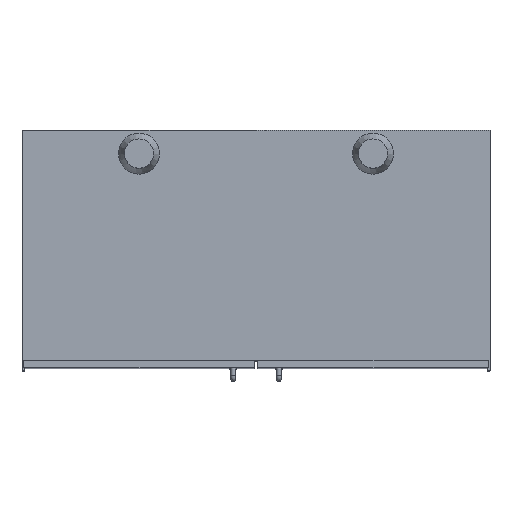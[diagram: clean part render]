
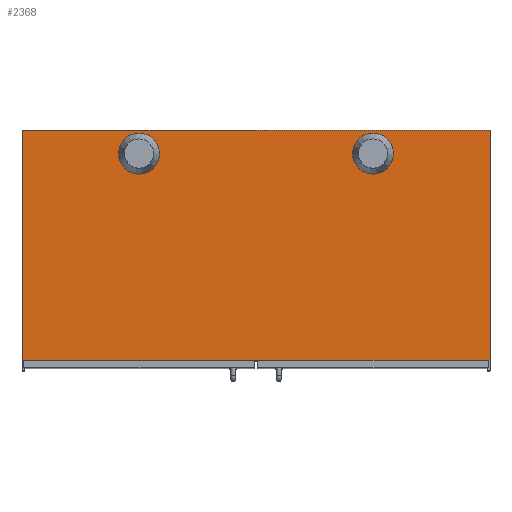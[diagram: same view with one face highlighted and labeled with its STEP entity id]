
A CAD part, top view. The second image highlights one B-rep face of the part: STEP entity #2368.
In plain terms, the highlighted planar face has unit normal (0, 0, 1).
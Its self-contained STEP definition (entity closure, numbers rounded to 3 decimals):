
#66=CIRCLE('',#2468,52.5);
#73=CIRCLE('',#2496,52.5);
#302=ORIENTED_EDGE('',*,*,#670,.T.);
#303=ORIENTED_EDGE('',*,*,#630,.T.);
#304=ORIENTED_EDGE('',*,*,#562,.F.);
#305=ORIENTED_EDGE('',*,*,#671,.F.);
#306=ORIENTED_EDGE('',*,*,#672,.T.);
#307=ORIENTED_EDGE('',*,*,#673,.T.);
#562=EDGE_CURVE('',#782,#783,#942,.T.);
#630=EDGE_CURVE('',#838,#838,#66,.T.);
#670=EDGE_CURVE('',#859,#859,#73,.T.);
#671=EDGE_CURVE('',#860,#782,#1029,.T.);
#672=EDGE_CURVE('',#860,#861,#1030,.T.);
#673=EDGE_CURVE('',#861,#783,#1031,.T.);
#782=VERTEX_POINT('',#3100);
#783=VERTEX_POINT('',#3102);
#838=VERTEX_POINT('',#3245);
#859=VERTEX_POINT('',#3327);
#860=VERTEX_POINT('',#3329);
#861=VERTEX_POINT('',#3331);
#942=LINE('',#3101,#1110);
#1029=LINE('',#3328,#1197);
#1030=LINE('',#3330,#1198);
#1031=LINE('',#3332,#1199);
#1110=VECTOR('',#2608,1000.);
#1197=VECTOR('',#2821,1000.);
#1198=VECTOR('',#2822,1000.);
#1199=VECTOR('',#2823,1000.);
#1316=EDGE_LOOP('',(#302));
#1317=EDGE_LOOP('',(#303));
#1318=EDGE_LOOP('',(#304,#305,#306,#307));
#1460=FACE_BOUND('',#1316,.T.);
#1461=FACE_BOUND('',#1317,.T.);
#1462=FACE_BOUND('',#1318,.T.);
#1577=PLANE('',#2495);
#2368=ADVANCED_FACE('',(#1460,#1461,#1462),#1577,.F.);
#2468=AXIS2_PLACEMENT_3D('',#3244,#2730,#2731);
#2495=AXIS2_PLACEMENT_3D('',#3325,#2817,#2818);
#2496=AXIS2_PLACEMENT_3D('',#3326,#2819,#2820);
#2608=DIRECTION('',(-1.,0.,0.));
#2730=DIRECTION('',(0.,0.,-1.));
#2731=DIRECTION('',(-1.,0.,0.));
#2817=DIRECTION('',(0.,0.,-1.));
#2818=DIRECTION('',(-1.,0.,0.));
#2819=DIRECTION('',(0.,0.,-1.));
#2820=DIRECTION('',(-1.,0.,0.));
#2821=DIRECTION('',(0.,-1.,0.));
#2822=DIRECTION('',(-1.,0.,0.));
#2823=DIRECTION('',(0.,-1.,0.));
#3100=CARTESIAN_POINT('',(1200.,19.,1385.));
#3101=CARTESIAN_POINT('',(1197.,19.,1385.));
#3102=CARTESIAN_POINT('',(0.,19.,1385.));
#3244=CARTESIAN_POINT('',(900.,549.,1385.));
#3245=CARTESIAN_POINT('',(847.5,549.,1385.));
#3325=CARTESIAN_POINT('',(1197.,631.,1385.));
#3326=CARTESIAN_POINT('',(300.,549.,1385.));
#3327=CARTESIAN_POINT('',(247.5,549.,1385.));
#3328=CARTESIAN_POINT('',(1200.,631.,1385.));
#3329=CARTESIAN_POINT('',(1200.,609.,1385.));
#3330=CARTESIAN_POINT('',(1197.,609.,1385.));
#3331=CARTESIAN_POINT('',(0.,609.,1385.));
#3332=CARTESIAN_POINT('',(0.,631.,1385.));
